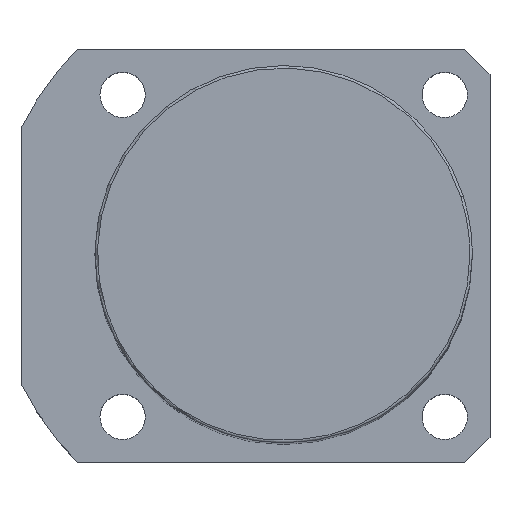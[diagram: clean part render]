
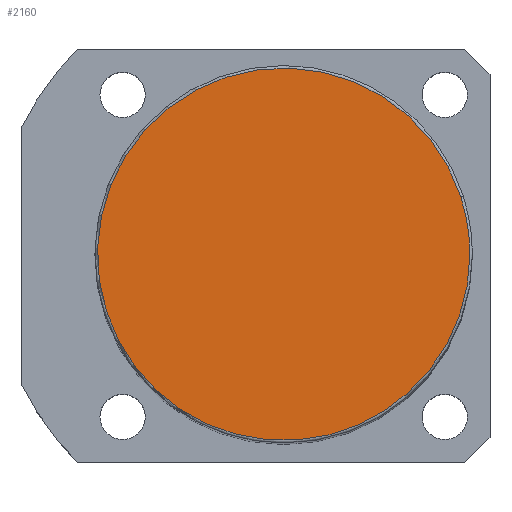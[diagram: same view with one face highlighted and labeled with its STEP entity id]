
A CAD part, top view. The second image highlights one B-rep face of the part: STEP entity #2160.
In plain terms, the highlighted planar face has unit normal (0, 0, 1).
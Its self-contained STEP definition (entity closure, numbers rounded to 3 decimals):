
#2126=CARTESIAN_POINT('',(37.0,0.0,198.0));
#2127=VERTEX_POINT('',#2126);
#2128=CARTESIAN_POINT('',(35.189,11.434,198.0));
#2129=VERTEX_POINT('',#2128);
#2130=CARTESIAN_POINT('',(0.0,0.0,198.0));
#2131=DIRECTION('',(0.0,0.0,1.0));
#2132=DIRECTION('',(1.0,0.0,0.0));
#2133=AXIS2_PLACEMENT_3D('',#2130,#2131,#2132);
#2134=CIRCLE('',#2133,37.0);
#2135=EDGE_CURVE('no 1996',#2127,#2129,#2134,.T.);
#2136=ORIENTED_EDGE('',*,*,#2135,.T.);
#2137=CARTESIAN_POINT('',(-35.189,-11.434,198.0));
#2138=VERTEX_POINT('',#2137);
#2139=CARTESIAN_POINT('',(0.0,0.0,198.0));
#2140=DIRECTION('',(0.0,0.0,1.0));
#2141=DIRECTION('',(1.0,0.0,0.0));
#2142=AXIS2_PLACEMENT_3D('',#2139,#2140,#2141);
#2143=CIRCLE('',#2142,37.0);
#2144=EDGE_CURVE('no 2002',#2129,#2138,#2143,.T.);
#2145=ORIENTED_EDGE('',*,*,#2144,.T.);
#2146=CARTESIAN_POINT('',(0.0,0.0,198.0));
#2147=DIRECTION('',(0.0,0.0,1.0));
#2148=DIRECTION('',(1.0,0.0,0.0));
#2149=AXIS2_PLACEMENT_3D('',#2146,#2147,#2148);
#2150=CIRCLE('',#2149,37.0);
#2151=EDGE_CURVE('no 2006',#2138,#2127,#2150,.T.);
#2152=ORIENTED_EDGE('',*,*,#2151,.T.);
#2153=EDGE_LOOP('',(#2136,#2145,#2152));
#2154=FACE_OUTER_BOUND('',#2153,.T.);
#2155=CARTESIAN_POINT('',(0.0,0.0,198.0));
#2156=DIRECTION('',(0.0,0.0,1.0));
#2157=DIRECTION('',(1.0,0.0,0.0));
#2158=AXIS2_PLACEMENT_3D('',#2155,#2156,#2157);
#2159=PLANE('',#2158);
#2160=ADVANCED_FACE('no 1987',(#2154),#2159,.T.);
